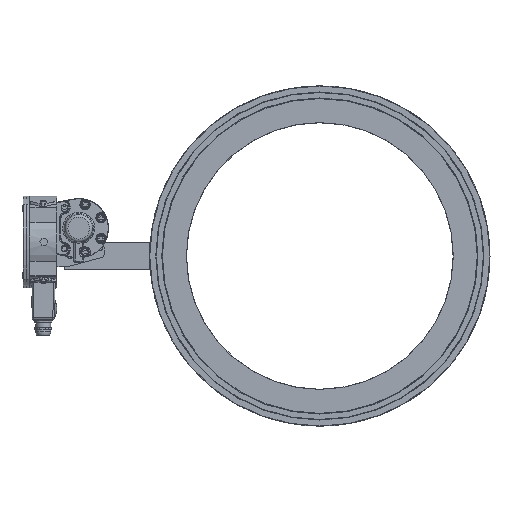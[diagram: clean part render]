
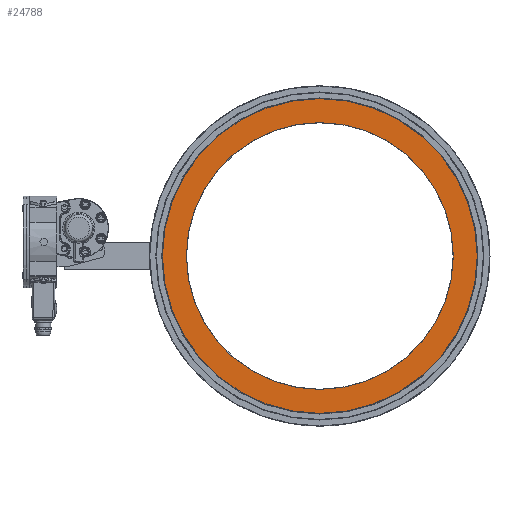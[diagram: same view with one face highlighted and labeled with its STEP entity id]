
A CAD part, top view. The second image highlights one B-rep face of the part: STEP entity #24788.
In plain terms, the highlighted planar face has unit normal (0, 0, 1).
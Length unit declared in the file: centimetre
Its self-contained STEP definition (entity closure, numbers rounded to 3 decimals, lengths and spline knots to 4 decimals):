
#7154=PLANE('',#26674);
#9240=VERTEX_POINT('',#59379);
#9241=VERTEX_POINT('',#59381);
#10153=CIRCLE('',#26713,23.025);
#10154=CIRCLE('',#26714,19.525);
#13317=EDGE_CURVE('',#9240,#9240,#10153,.T.);
#13318=EDGE_CURVE('',#9241,#9241,#10154,.T.);
#19650=ORIENTED_EDGE('',*,*,#13318,.F.);
#19651=ORIENTED_EDGE('',*,*,#13317,.F.);
#21539=EDGE_LOOP('',(#19650));
#21540=EDGE_LOOP('',(#19651));
#23325=FACE_BOUND('',#21539,.T.);
#23326=FACE_BOUND('',#21540,.T.);
#24788=ADVANCED_FACE('',(#23325,#23326),#7154,.F.);
#26674=AXIS2_PLACEMENT_3D('',#59297,#31289,$);
#26713=AXIS2_PLACEMENT_3D('',#59378,#31374,#31375);
#26714=AXIS2_PLACEMENT_3D('',#59380,#31376,#31377);
#31289=DIRECTION('',(0.,0.,-1.));
#31374=DIRECTION('',(0.,0.,-1.));
#31375=DIRECTION('',(-23.025,0.,0.));
#31376=DIRECTION('',(0.,0.,1.));
#31377=DIRECTION('',(19.525,0.,0.));
#59297=CARTESIAN_POINT('',(34.1878,-2.8808,-5.5525));
#59378=CARTESIAN_POINT('',(34.1878,-2.8808,-5.5525));
#59379=CARTESIAN_POINT('',(57.2128,-2.8808,-5.5525));
#59380=CARTESIAN_POINT('',(34.1878,-2.8808,-5.5525));
#59381=CARTESIAN_POINT('',(14.6628,-2.8808,-5.5525));
